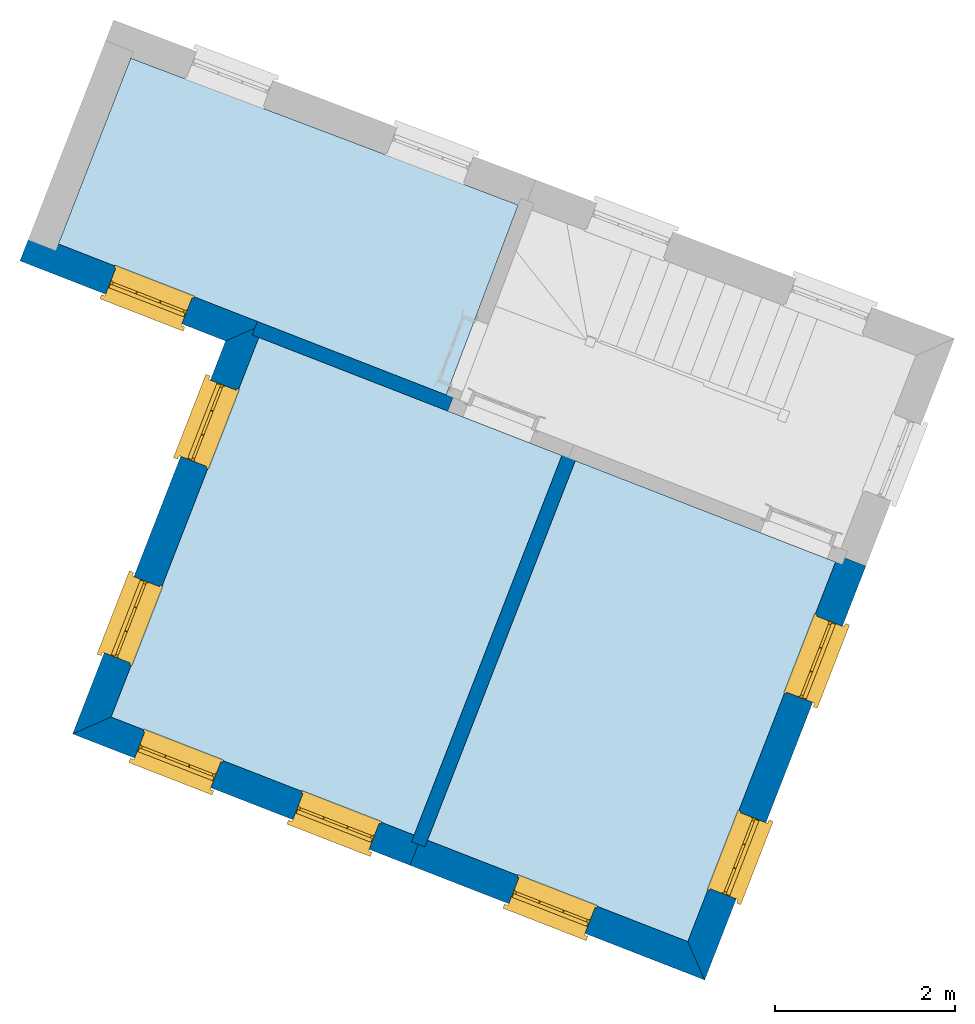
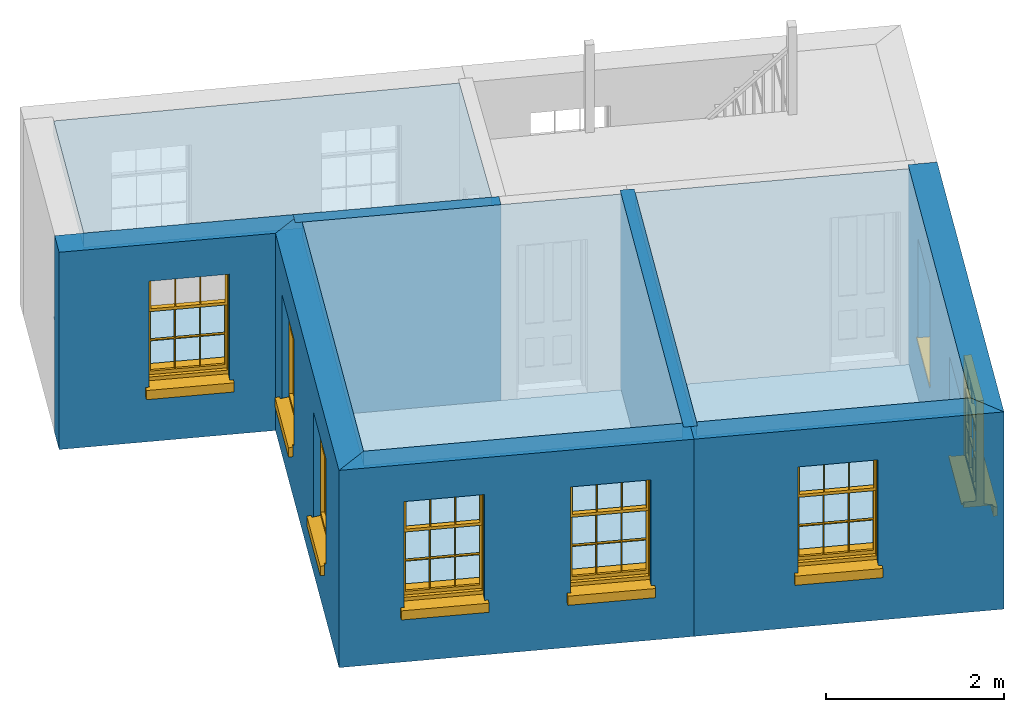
# One storey, part 1 of 2: 8 windows, 7 walls, 6 slabs, 8 openings.
"""IFC4 building model written with IfcOpenShell, lengths in metres."""

from ifc_helpers import new_model, si_unit, frame, origin, origin_with_axes, place, context, subcontext, project, spatial, polyline, outline, extrude, faceted_brep, source, transform, mapped, material, layer, layer_set, layer_usage, type_object, type_shapes, element, fill, save


model = new_model("IFC4")

# Units and contexts
model_context = context("Model", 3, world=origin_with_axes())
body_context = subcontext(model_context, "Body", "Model", "MODEL_VIEW")
ifc_project = project(units=[si_unit("PLANEANGLEUNIT", "RADIAN"), si_unit("MASSUNIT", "GRAM", prefix="KILO"), si_unit("FORCEUNIT", "NEWTON", prefix="KILO"), si_unit("LENGTHUNIT", "METRE"), si_unit("AREAUNIT", "SQUARE_METRE"), si_unit("VOLUMEUNIT", "CUBIC_METRE")], contexts=[model_context, model_context])

# Sites, building, storey
site_1_placement = place(None, origin_with_axes())
site_1 = spatial("IfcSite", under=ifc_project, at=site_1_placement, Name="Tamar")
site_2_placement = place(site_1_placement, origin_with_axes())
site_2 = spatial("IfcSite", under=site_1, at=site_2_placement, Name="Site plot-8", CompositionType="ELEMENT")
building_placement = place(None, origin_with_axes())
building = spatial("IfcBuilding", under=site_2, at=building_placement, Name="Building plot-8", CompositionType="ELEMENT")
storey_placement = place(None, frame((0.0, 0.0, 28.85), z_axis=(0.0, 0.0, 1.0), x_axis=(1.0, 0.0, 0.0)))
storey = spatial("IfcBuildingStorey", under=building, at=storey_placement, Name="plot-8 1", CompositionType="ELEMENT", Elevation=28.85)

# Slabs
slab_1_placement = place(storey_placement, frame((221.795843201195, 310.260790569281, 2.5)))
element("IfcSlab", 1, at=slab_1_placement, inside=storey, Name="My Slab", ObjectType="Slab", PredefinedType="FLOOR", context=body_context, shape_type="SweptSolid", body=[
    extrude(outline(polyline([(0.0, 0.0), (4.31451663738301, -1.67979671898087), (5.11512416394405, 0.433972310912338), (0.804608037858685, 2.06661599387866), (0.0, 0.0)])), origin_with_axes(), (0.0, 0.0, 1.0), 0.2),
])
slab_2_placement = place(storey_placement, frame((221.795843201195, 310.260790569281, 0.0)))
element("IfcSlab", 2, at=slab_2_placement, inside=storey, Name="My Slab", ObjectType="Slab", PredefinedType="FLOOR", context=body_context, shape_type="SweptSolid", body=[
    extrude(outline(polyline([(0.0, 0.0), (4.31451663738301, -1.67979671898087), (5.11512416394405, 0.433972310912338), (0.804608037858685, 2.06661599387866), (0.0, 0.0)])), origin_with_axes(), (0.0, 0.0, 1.0), 0.02),
])
slab_3_placement = place(storey_placement, frame((222.381477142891, 304.99835360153, 2.5)))
element("IfcSlab", 3, at=slab_3_placement, inside=storey, Name="My Slab", ObjectType="Slab", PredefinedType="FLOOR", context=body_context, shape_type="SweptSolid", body=[
    extrude(outline(polyline([(0.0, 0.0), (3.37150952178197, -1.31265008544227), (5.01553914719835, 2.90999965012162), (1.64402962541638, 4.22264973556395), (0.0, 0.0)])), origin_with_axes(), (0.0, 0.0, 1.0), 0.2),
])
slab_4_placement = place(storey_placement, frame((222.381477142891, 304.99835360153, 0.0)))
element("IfcSlab", 4, at=slab_4_placement, inside=storey, Name="My Slab", ObjectType="Slab", PredefinedType="FLOOR", context=body_context, shape_type="SweptSolid", body=[
    extrude(outline(polyline([(0.0, 0.0), (3.37150952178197, -1.31265008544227), (5.01553914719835, 2.90999965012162), (1.64402962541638, 4.22264973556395), (0.0, 0.0)])), origin_with_axes(), (0.0, 0.0, 1.0), 0.02),
])
slab_5_placement = place(storey_placement, frame((225.902084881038, 303.627654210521, 2.5)))
element("IfcSlab", 5, at=slab_5_placement, inside=storey, Name="My Slab", ObjectType="Slab", PredefinedType="FLOOR", context=body_context, shape_type="SweptSolid", body=[
    extrude(outline(polyline([(0.0, 0.0), (2.89528776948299, -1.12723980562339), (4.53931739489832, 3.0954099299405), (1.64402962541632, 4.22264973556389), (0.0, 0.0)])), origin_with_axes(), (0.0, 0.0, 1.0), 0.2),
])
slab_6_placement = place(storey_placement, frame((225.902084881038, 303.627654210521, 0.0)))
element("IfcSlab", 6, at=slab_6_placement, inside=storey, Name="My Slab", ObjectType="Slab", PredefinedType="FLOOR", context=body_context, shape_type="SweptSolid", body=[
    extrude(outline(polyline([(0.0, 0.0), (2.89528776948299, -1.12723980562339), (4.53931739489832, 3.0954099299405), (1.64402962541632, 4.22264973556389), (0.0, 0.0)])), origin_with_axes(), (0.0, 0.0, 1.0), 0.02),
])

# Wall, opening, window
ifc_material_1 = material(Name="Masonry")
ifc_layer_1 = layer(ifc_material_1, 0.33, ventilated=False)
ifc_layer_set_1 = layer_set([ifc_layer_1], Name="exterior_0.08_0.25")
ifc_layer_usage_1 = layer_usage(ifc_layer_set_1, "AXIS2", "POSITIVE", -0.25)
wall_type_1 = type_object("IfcWallType", Name="exterior_0.08_0.25", PredefinedType="SOLIDWALL", material=ifc_layer_set_1)
wall_1_placement = place(storey_placement, frame((221.692269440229, 310.215266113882, 0.0), z_axis=(0.0, 0.0, 1.0), x_axis=(0.93186385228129, -0.362808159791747, 0.0)))
wall_1 = element("IfcWall", 7, at=wall_1_placement, inside=storey, type_object=wall_type_1, material=ifc_layer_usage_1, Name="exterior", context=body_context, shape_type="SweptSolid", body=[
    extrude(outline(polyline([(-0.249999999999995, 0.0799999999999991), (-0.249999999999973, -0.250000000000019), (2.20498617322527, -0.25000000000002), (2.53498617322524, 0.0800000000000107), (-0.249999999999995, 0.0799999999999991)])), origin_with_axes(), (0.0, 0.0, 1.0), 2.7),
])
opening_1_placement = place(wall_1_placement, frame((0.772493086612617, 0.0, 0.75)))
opening_1 = element("IfcOpeningElement", 8, at=opening_1_placement, cuts=wall_1, Name="My Opening", ObjectType="Opening", context=body_context, shape_type="SweptSolid", body=[
    extrude(outline(polyline([(0.0, -0.270000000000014), (0.91000000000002, -0.270000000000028), (0.910000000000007, 1.10000000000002), (-1.22124532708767e-14, 1.10000000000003), (0.0, -0.270000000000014)])), origin_with_axes(), (0.0, 0.0, 1.0), 1.445),
])
window_type = type_object("IfcWindowType", Name="sash_shorter", PartitioningType="DOUBLE_PANEL_HORIZONTAL", PredefinedType="NOTDEFINED")
shared_shape = source(origin(), body_context, "Body", "Brep", [
    faceted_brep([(0.876875, 0.145, 0.999097), (0.876875, 0.145, 1.411875), (0.9, 0.145, 1.435), (0.033125, 0.145, 1.411875), (0.033125, 0.145, 0.999097), (0.01, 0.145, 1.435), (0.033125, 0.115, 1.411875), (0.01, 0.115, 1.435), (0.033125, 0.115, 0.999097), (0.876875, 0.115, 1.411875), (0.876875, 0.115, 0.999097), (0.9, 0.115, 1.435), (0.033125, 0.145, 0.960972), (0.01, 0.145, 0.960972), (0.033125, 0.145, 0.548195), (0.876875, 0.145, 0.960972), (0.876875, 0.145, 0.548195), (0.9, 0.145, 0.960972), (0.876875, 0.145, 0.538195), (0.876875, 0.145, 0.125417), (0.9, 0.145, 0.077167), (0.033125, 0.145, 0.125417), (0.033125, 0.145, 0.538195), (0.01, 0.145, 0.077167), (0.9, 0.115, 0.960972), (0.01, 0.115, 0.960972), (-0.0425, 0.0, 0.01), (-0.0425, -0.05, 0.001667), (0.0, 0.0, 0.01), (0.9525, 0.0, 0.01), (0.91, 0.0, 0.01), (0.9525, -0.05, 0.001667), (-0.02, 0.33, 0.077167), (0.0, 0.33, 0.077167), (-0.02, 0.36, 0.077167), (0.0, 0.19, 0.077167), (0.01, 0.19, 0.077167), (0.91, 0.19, 0.077167), (0.91, 0.33, 0.077167), (0.9, 0.19, 0.077167), (0.93, 0.33, 0.077167), (0.93, 0.36, 0.077167), (0.01, 0.145, 0.999097), (0.01, 0.175, 0.999097), (0.9, 0.145, 0.999097), (0.9, 0.175, 0.999097), (0.876875, 0.175, 0.125417), (0.876875, 0.175, 0.538195), (0.9, 0.175, 0.077167), (0.876875, 0.175, 0.548195), (0.876875, 0.175, 0.960972), (0.033125, 0.175, 0.125417), (0.01, 0.175, 0.077167), (0.033125, 0.175, 0.538195), (0.033125, 0.175, 0.960972), (0.033125, 0.175, 0.548195), (-0.02, 0.33, 0.052167), (-0.02, 0.36, 0.052167), (0.93, 0.36, 0.052167), (0.93, 0.33, 0.052167), (0.91, 0.33, 0.052167), (0.0, 0.33, 0.052167), (0.91, 0.1, 0.026667), (0.0, 0.1, 0.026667), (-0.0425, -0.05, -0.123333), (0.9525, -0.05, -0.123333), (-0.0425, 0.0, -0.123333), (0.9525, 0.0, -0.123333), (0.01, 0.19, 1.435), (0.9, 0.19, 1.435), (0.0, 0.19, 1.445), (0.91, 0.19, 1.445), (0.01, 0.1, 0.077167), (0.9, 0.1, 0.077167), (0.592292, 0.145, 0.125417), (0.592292, 0.175, 0.125417), (0.317708, 0.175, 0.125417), (0.317708, 0.145, 0.125417), (0.592292, 0.145, 0.548195), (0.317708, 0.145, 0.548195), (0.317708, 0.145, 0.538195), (0.592292, 0.145, 0.538195), (0.592292, 0.175, 0.548195), (0.317708, 0.175, 0.548195), (0.602292, 0.175, 0.548195), (0.602292, 0.145, 0.548195), (0.317708, 0.175, 0.538195), (0.307708, 0.175, 0.125417), (0.307708, 0.175, 0.538195), (0.602292, 0.175, 0.538195), (0.602292, 0.175, 0.125417), (0.592292, 0.175, 0.538195), (0.307708, 0.175, 0.548195), (0.317708, 0.175, 0.960972), (0.307708, 0.175, 0.960972), (0.602292, 0.175, 0.960972), (0.592292, 0.175, 0.960972), (0.307708, 0.145, 0.538195), (0.307708, 0.145, 0.125417), (0.307708, 0.145, 0.548195), (0.307708, 0.145, 0.960972), (0.592292, 0.145, 0.960972), (0.317708, 0.145, 0.960972), (0.602292, 0.145, 0.960972), (0.602292, 0.145, 0.538195), (0.602292, 0.145, 0.125417), (0.317708, 0.115, 1.411875), (0.307708, 0.115, 1.411875), (0.307708, 0.115, 0.999097), (0.317708, 0.115, 0.999097), (0.602292, 0.115, 1.411875), (0.592292, 0.115, 1.411875), (0.592292, 0.115, 0.999097), (0.602292, 0.115, 0.999097), (0.317708, 0.145, 0.999097), (0.307708, 0.145, 0.999097), (0.307708, 0.145, 1.411875), (0.317708, 0.145, 1.411875), (0.602292, 0.145, 0.999097), (0.592292, 0.145, 0.999097), (0.592292, 0.145, 1.411875), (0.602292, 0.145, 1.411875), (0.91, 0.1, 1.445), (0.9, 0.1, 1.435), (0.01, 0.1, 1.435), (0.0, 0.1, 1.445), (0.91, 0.0, 0.0), (0.0, 0.0, 0.0), (0.91, 0.33, 0.0), (0.0, 0.33, 0.0)], [[[0, 1, 2]], [[3, 4, 5]], [[6, 7, 8]], [[9, 10, 11]], [[12, 13, 14]], [[15, 16, 17]], [[18, 19, 20]], [[21, 22, 23]], [[24, 15, 17]], [[13, 12, 25]], [[26, 27, 28]], [[29, 30, 31]], [[32, 33, 34]], [[35, 36, 33]], [[37, 38, 39]], [[40, 41, 38]], [[42, 4, 43]], [[44, 45, 0]], [[46, 47, 48]], [[49, 50, 45]], [[51, 52, 53]], [[54, 55, 43]], [[38, 33, 36, 39]], [[41, 34, 33, 38]], [[56, 32, 34, 57]], [[57, 34, 41, 58]], [[58, 41, 40, 59]], [[57, 58, 60, 61]], [[52, 48, 39, 36]], [[62, 63, 28, 30]], [[27, 31, 30, 28]], [[27, 64, 65, 31]], [[66, 67, 65, 64]], [[2, 5, 68, 69]], [[68, 70, 71, 69]], [[20, 23, 72, 73]], [[73, 72, 63, 62]], [[74, 75, 76, 77]], [[78, 79, 80, 81]], [[78, 82, 83, 79]], [[16, 49, 84, 85]], [[86, 76, 87, 88]], [[89, 90, 75, 91]], [[92, 88, 53, 55]], [[82, 91, 86, 83]], [[93, 83, 92, 94]], [[95, 84, 82, 96]], [[89, 84, 49, 47]], [[97, 88, 87, 98]], [[22, 53, 88, 97]], [[81, 91, 75, 74]], [[80, 86, 91, 81]], [[77, 76, 86, 80]], [[99, 92, 55, 14]], [[100, 94, 92, 99]], [[101, 96, 82, 78]], [[79, 83, 93, 102]], [[85, 84, 95, 103]], [[104, 89, 47, 18]], [[105, 90, 89, 104]], [[104, 18, 16, 85]], [[80, 97, 98, 77]], [[104, 81, 74, 105]], [[103, 101, 78, 85]], [[99, 14, 22, 97]], [[102, 100, 99, 79]], [[106, 107, 108, 109]], [[110, 111, 112, 113]], [[114, 115, 116, 117]], [[118, 119, 120, 121]], [[107, 116, 115, 108]], [[111, 120, 119, 112]], [[109, 114, 117, 106]], [[113, 118, 121, 110]], [[85, 78, 81, 104]], [[84, 89, 91, 82]], [[83, 86, 88, 92]], [[79, 99, 97, 80]], [[109, 112, 119, 114]], [[102, 93, 96, 101]], [[106, 117, 120, 111]], [[98, 87, 51, 21]], [[6, 3, 116, 107]], [[110, 121, 1, 9]], [[19, 46, 90, 105]], [[26, 66, 64, 27]], [[29, 31, 65, 67]], [[25, 24, 112, 109]], [[11, 7, 106, 111]], [[75, 48, 52, 76]], [[43, 45, 96, 93]], [[45, 43, 114, 119]], [[5, 2, 120, 117]], [[24, 25, 102, 101]], [[42, 5, 4]], [[2, 44, 0]], [[49, 45, 48, 47]], [[52, 43, 55, 53]], [[14, 13, 23, 22]], [[20, 17, 16, 18]], [[24, 11, 10]], [[25, 8, 7]], [[8, 4, 3, 6]], [[9, 1, 0, 10]], [[15, 50, 49, 16]], [[18, 47, 46, 19]], [[21, 51, 53, 22]], [[14, 55, 54, 12]], [[44, 2, 69, 45]], [[68, 5, 42, 43]], [[36, 35, 70, 68]], [[39, 69, 71, 37]], [[62, 122, 123, 73]], [[63, 72, 124, 125]], [[8, 108, 115, 4]], [[113, 10, 0, 118]], [[94, 100, 12, 54]], [[17, 20, 73, 24]], [[72, 23, 13, 25]], [[52, 36, 68, 43]], [[69, 39, 48, 45]], [[11, 24, 73, 123]], [[7, 124, 72, 25]], [[23, 77, 98]], [[98, 21, 23]], [[105, 74, 20]], [[20, 19, 105]], [[20, 74, 77, 23]], [[113, 112, 24]], [[24, 10, 113]], [[25, 109, 108]], [[108, 8, 25]], [[110, 9, 11]], [[11, 111, 110]], [[7, 6, 107]], [[107, 106, 7]], [[5, 117, 116]], [[116, 3, 5]], [[121, 120, 2]], [[2, 1, 121]], [[11, 123, 124, 7]], [[122, 125, 124, 123]], [[43, 93, 94]], [[94, 54, 43]], [[96, 45, 95]], [[50, 95, 45]], [[15, 103, 95, 50]], [[48, 75, 90]], [[90, 46, 48]], [[87, 76, 52]], [[52, 51, 87]], [[103, 15, 24]], [[24, 101, 103]], [[100, 102, 25]], [[25, 12, 100]], [[115, 114, 43]], [[43, 4, 115]], [[118, 0, 45]], [[45, 119, 118]], [[71, 70, 125, 122]], [[70, 35, 63, 125]], [[122, 62, 37, 71]], [[126, 67, 66, 127]], [[60, 58, 59]], [[38, 60, 59, 40]], [[61, 56, 57]], [[32, 56, 61, 33]], [[61, 60, 128, 129]], [[62, 60, 38, 37]], [[126, 128, 60, 62]], [[33, 61, 63, 35]], [[61, 129, 127, 63]], [[128, 126, 127, 129]], [[28, 127, 66, 26]], [[63, 127, 28]], [[29, 67, 126, 30]], [[30, 126, 62]]]),
])
type_shapes(window_type, [shared_shape])
window_1_placement = place(storey_placement, frame((222.314169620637, 309.68339607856, 0.75), z_axis=(0.0, 0.0, 1.0), x_axis=(0.847996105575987, -0.33015542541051, 0.0)))
window_1 = element("IfcWindow", 9, at=window_1_placement, inside=storey, type_object=window_type, Name="toilet outside window", OverallHeight=1.445, OverallWidth=0.91, context=body_context, shape_type="MappedRepresentation", body=[
    mapped(shared_shape, transform((0.0, 0.0, 0.0), scale=1.0)),
])
fill(opening_1, window_1)

# Wall, openings, windows
wall_2_placement = place(storey_placement, frame((223.979982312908, 309.32457709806, 0.0), z_axis=(0.0, 0.0, 1.0), x_axis=(-0.362808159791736, -0.931863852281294, 0.0)))
wall_2 = element("IfcWall", 10, at=wall_2_placement, inside=storey, type_object=wall_type_1, material=ifc_layer_usage_1, Name="exterior", context=body_context, shape_type="SweptSolid", body=[
    extrude(outline(polyline([(-0.0800000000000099, 0.0799999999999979), (0.250000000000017, -0.249999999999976), (4.94140201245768, -0.249999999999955), (4.61140201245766, 0.0799999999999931), (-0.0800000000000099, 0.0799999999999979)])), origin_with_axes(), (0.0, 0.0, 1.0), 2.7),
])
opening_2_placement = place(wall_2_placement, frame((0.717850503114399, 0.0, 0.75)))
opening_2 = element("IfcOpeningElement", 11, at=opening_2_placement, cuts=wall_2, Name="My Opening", ObjectType="Opening", context=body_context, shape_type="SweptSolid", body=[
    extrude(outline(polyline([(0.0, -0.269999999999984), (0.910000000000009, -0.269999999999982), (0.910000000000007, 1.1), (-2.55351295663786e-15, 1.1), (0.0, -0.269999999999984)])), origin_with_axes(), (0.0, 0.0, 1.0), 1.445),
])
opening_3_placement = place(wall_2_placement, frame((3.06355150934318, 0.0, 0.75)))
opening_3 = element("IfcOpeningElement", 12, at=opening_3_placement, cuts=wall_2, Name="My Opening", ObjectType="Opening", context=body_context, shape_type="SweptSolid", body=[
    extrude(outline(polyline([(0.0, -0.270000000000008), (0.91000000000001, -0.270000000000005), (0.910000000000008, 1.09999999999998), (-1.77635683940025e-15, 1.09999999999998), (0.0, -0.270000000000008)])), origin_with_axes(), (0.0, 0.0, 1.0), 1.445),
])
window_2_placement = place(storey_placement, frame((223.467937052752, 308.75359636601, 0.75), z_axis=(0.0, 0.0, 1.0), x_axis=(-0.330155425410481, -0.847996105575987, 0.0)))
window_2 = element("IfcWindow", 13, at=window_2_placement, inside=storey, type_object=window_type, Name="bedroom outside window", OverallHeight=1.445, OverallWidth=0.91, context=body_context, shape_type="MappedRepresentation", body=[
    mapped(shared_shape, transform((0.0, 0.0, 0.0), scale=1.0)),
])
fill(opening_2, window_2)
window_3_placement = place(storey_placement, frame((222.61689758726, 306.567722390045, 0.75), z_axis=(0.0, 0.0, 1.0), x_axis=(-0.330155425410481, -0.847996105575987, 0.0)))
window_3 = element("IfcWindow", 14, at=window_3_placement, inside=storey, type_object=window_type, Name="bedroom outside window", OverallHeight=1.445, OverallWidth=0.91, context=body_context, shape_type="MappedRepresentation", body=[
    mapped(shared_shape, transform((0.0, 0.0, 0.0), scale=1.0)),
])
fill(opening_3, window_3)

wall_3_placement = place(storey_placement, frame((222.277903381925, 304.952829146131, 0.0), z_axis=(0.0, 0.0, 1.0), x_axis=(0.931863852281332, -0.36280815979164, 0.0)))
wall_3 = element("IfcWall", 15, at=wall_3_placement, inside=storey, type_object=wall_type_1, material=ifc_layer_usage_1, Name="exterior", context=body_context, shape_type="SweptSolid", body=[
    extrude(outline(polyline([(0.0800000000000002, 0.0799999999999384), (-0.249999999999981, -0.250000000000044), (3.77802801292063, -0.250000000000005), (3.77802801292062, 0.0800000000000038), (0.0800000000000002, 0.0799999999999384)])), origin_with_axes(), (0.0, 0.0, 1.0), 2.7),
])
opening_4_placement = place(wall_3_placement, frame((0.489507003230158, 0.0, 0.75)))
opening_4 = element("IfcOpeningElement", 16, at=opening_4_placement, cuts=wall_3, Name="My Opening", ObjectType="Opening", context=body_context, shape_type="SweptSolid", body=[
    extrude(outline(polyline([(0.0, -0.270000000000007), (0.910000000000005, -0.270000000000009), (0.90999999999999, 1.09999999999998), (-1.51545442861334e-14, 1.09999999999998), (0.0, -0.270000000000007)])), origin_with_axes(), (0.0, 0.0, 1.0), 1.445),
])
opening_5_placement = place(wall_3_placement, frame((2.37852100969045, 0.0, 0.75)))
opening_5 = element("IfcOpeningElement", 17, at=opening_5_placement, cuts=wall_3, Name="My Opening", ObjectType="Opening", context=body_context, shape_type="SweptSolid", body=[
    extrude(outline(polyline([(0.0, -0.270000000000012), (0.910000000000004, -0.270000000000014), (0.909999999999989, 1.09999999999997), (-1.55431223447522e-14, 1.09999999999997), (0.0, -0.270000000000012)])), origin_with_axes(), (0.0, 0.0, 1.0), 1.445),
])
window_4_placement = place(storey_placement, frame((222.63609906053, 304.523628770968, 0.75), z_axis=(0.0, 0.0, 1.0), x_axis=(0.847996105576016, -0.330155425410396, 0.0)))
window_4 = element("IfcWindow", 18, at=window_4_placement, inside=storey, type_object=window_type, Name="bedroom outside window", OverallHeight=1.445, OverallWidth=0.91, context=body_context, shape_type="MappedRepresentation", body=[
    mapped(shared_shape, transform((0.0, 0.0, 0.0), scale=1.0)),
])
fill(opening_4, window_4)
window_5_placement = place(storey_placement, frame((224.396402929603, 303.838279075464, 0.75), z_axis=(0.0, 0.0, 1.0), x_axis=(0.847996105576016, -0.330155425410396, 0.0)))
window_5 = element("IfcWindow", 19, at=window_5_placement, inside=storey, type_object=window_type, Name="bedroom outside window", OverallHeight=1.445, OverallWidth=0.91, context=body_context, shape_type="MappedRepresentation", body=[
    mapped(shared_shape, transform((0.0, 0.0, 0.0), scale=1.0)),
])
fill(opening_5, window_5)

# Wall, opening, window
wall_4_placement = place(storey_placement, frame((225.798511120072, 303.582129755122, 0.0), z_axis=(0.0, 0.0, 1.0), x_axis=(0.93186385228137, -0.362808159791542, 0.0)))
wall_4 = element("IfcWall", 20, at=wall_4_placement, inside=storey, type_object=wall_type_1, material=ifc_layer_usage_1, Name="exterior", context=body_context, shape_type="SweptSolid", body=[
    extrude(outline(polyline([(1.05919853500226e-14, 0.0800000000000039), (-1.33686005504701e-14, -0.250000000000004), (3.51698581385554, -0.250000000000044), (3.18698581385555, 0.0800000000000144), (1.05919853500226e-14, 0.0800000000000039)])), origin_with_axes(), (0.0, 0.0, 1.0), 2.7),
])
opening_6_placement = place(wall_4_placement, frame((1.17849290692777, 0.0, 0.75)))
opening_6 = element("IfcOpeningElement", 21, at=opening_6_placement, cuts=wall_4, Name="My Opening", ObjectType="Opening", context=body_context, shape_type="SweptSolid", body=[
    extrude(outline(polyline([(0.0, -0.270000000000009), (0.909999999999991, -0.269999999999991), (0.909999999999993, 1.10000000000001), (2.66453525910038e-15, 1.09999999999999), (0.0, -0.270000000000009)])), origin_with_axes(), (0.0, 0.0, 1.0), 1.445),
])
window_6_placement = place(storey_placement, frame((226.798747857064, 302.902959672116, 0.75), z_axis=(0.0, 0.0, 1.0), x_axis=(0.847996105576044, -0.330155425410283, 0.0)))
window_6 = element("IfcWindow", 22, at=window_6_placement, inside=storey, type_object=window_type, Name="bedroom outside window", OverallHeight=1.445, OverallWidth=0.91, context=body_context, shape_type="MappedRepresentation", body=[
    mapped(shared_shape, transform((0.0, 0.0, 0.0), scale=1.0)),
])
fill(opening_6, window_6)

# Wall, openings, windows
wall_5_placement = place(storey_placement, frame((228.84289710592, 302.396840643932, 0.0), z_axis=(0.0, 0.0, 1.0), x_axis=(0.362808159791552, 0.931863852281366, 0.0)))
wall_5 = element("IfcWall", 23, at=wall_5_placement, inside=storey, type_object=wall_type_1, material=ifc_layer_usage_1, Name="exterior", context=body_context, shape_type="SweptSolid", body=[
    extrude(outline(polyline([(0.0800000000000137, 0.0799999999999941), (-0.250000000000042, -0.250000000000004), (4.69140201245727, -0.249999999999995), (4.69140201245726, 0.0800000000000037), (0.0800000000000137, 0.0799999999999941)])), origin_with_axes(), (0.0, 0.0, 1.0), 2.7),
])
opening_7_placement = place(wall_5_placement, frame((0.717850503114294, 0.0, 0.75)))
opening_7 = element("IfcOpeningElement", 24, at=opening_7_placement, cuts=wall_5, Name="My Opening", ObjectType="Opening", context=body_context, shape_type="SweptSolid", body=[
    extrude(outline(polyline([(0.0, -0.269999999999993), (0.910000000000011, -0.270000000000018), (0.910000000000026, 1.09999999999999), (1.55431223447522e-14, 1.10000000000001), (0.0, -0.269999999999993)])), origin_with_axes(), (0.0, 0.0, 1.0), 1.445),
])
opening_8_placement = place(wall_5_placement, frame((3.06355150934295, 0.0, 0.75)))
opening_8 = element("IfcOpeningElement", 25, at=opening_8_placement, cuts=wall_5, Name="My Opening", ObjectType="Opening", context=body_context, shape_type="SweptSolid", body=[
    extrude(outline(polyline([(0.0, -0.269999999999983), (0.910000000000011, -0.270000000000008), (0.910000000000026, 1.1), (1.55431223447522e-14, 1.10000000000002), (0.0, -0.269999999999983)])), origin_with_axes(), (0.0, 0.0, 1.0), 1.445),
])
window_7_placement = place(storey_placement, frame((229.354942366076, 302.967821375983, 0.75), z_axis=(0.0, 0.0, 1.0), x_axis=(0.330155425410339, 0.847996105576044, 0.0)))
window_7 = element("IfcWindow", 26, at=window_7_placement, inside=storey, type_object=window_type, Name="bedroom outside window", OverallHeight=1.445, OverallWidth=0.91, context=body_context, shape_type="MappedRepresentation", body=[
    mapped(shared_shape, transform((0.0, 0.0, 0.0), scale=1.0)),
])
fill(opening_7, window_7)
window_8_placement = place(storey_placement, frame((230.205981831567, 305.153695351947, 0.75), z_axis=(0.0, 0.0, 1.0), x_axis=(0.330155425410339, 0.847996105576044, 0.0)))
window_8 = element("IfcWindow", 27, at=window_8_placement, inside=storey, type_object=window_type, Name="bedroom outside window", OverallHeight=1.445, OverallWidth=0.91, context=body_context, shape_type="MappedRepresentation", body=[
    mapped(shared_shape, transform((0.0, 0.0, 0.0), scale=1.0)),
])
fill(opening_8, window_8)

# Walls
ifc_material_2 = material(Name="Masonry")
ifc_layer_2 = layer(ifc_material_2, 0.16, ventilated=False)
ifc_layer_set_2 = layer_set([ifc_layer_2], Name="interior_0.08_0.08")
ifc_layer_usage_2 = layer_usage(ifc_layer_set_2, "AXIS2", "POSITIVE", -0.08)
wall_type_2 = type_object("IfcWallType", Name="interior_0.08_0.08", PredefinedType="SOLIDWALL", material=ifc_layer_set_2)
wall_6_placement = place(storey_placement, frame((223.979982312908, 309.32457709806, 0.0), z_axis=(0.0, 0.0, 1.0), x_axis=(0.931863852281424, -0.362808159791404, 0.0)))
element("IfcWall", 28, at=wall_6_placement, inside=storey, type_object=wall_type_2, material=ifc_layer_usage_2, Name="interior", context=body_context, shape_type="SweptSolid", body=[
    extrude(outline(polyline([(-4.00966786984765e-15, 0.0799999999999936), (3.96434355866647e-15, -0.0799999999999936), (2.3357407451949, -0.0799999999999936), (2.3357407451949, 0.0799999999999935), (-4.00966786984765e-15, 0.0799999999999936)])), origin_with_axes(), (0.0, 0.0, 1.0), 2.7),
])
wall_7_placement = place(storey_placement, frame((225.798511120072, 303.582129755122, 0.0), z_axis=(0.0, 0.0, 1.0), x_axis=(0.362808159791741, 0.931863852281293, 0.0)))
element("IfcWall", 29, at=wall_7_placement, inside=storey, type_object=wall_type_2, material=ifc_layer_usage_2, Name="interior", context=body_context, shape_type="SweptSolid", body=[
    extrude(outline(polyline([(-6.46104030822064e-15, 0.0800000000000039), (6.47083748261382e-15, -0.0800000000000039), (4.69140201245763, -0.0800000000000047), (4.69140201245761, 0.0800000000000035), (-6.46104030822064e-15, 0.0800000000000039)])), origin_with_axes(), (0.0, 0.0, 1.0), 2.7),
])

save(model, "model.ifc")
